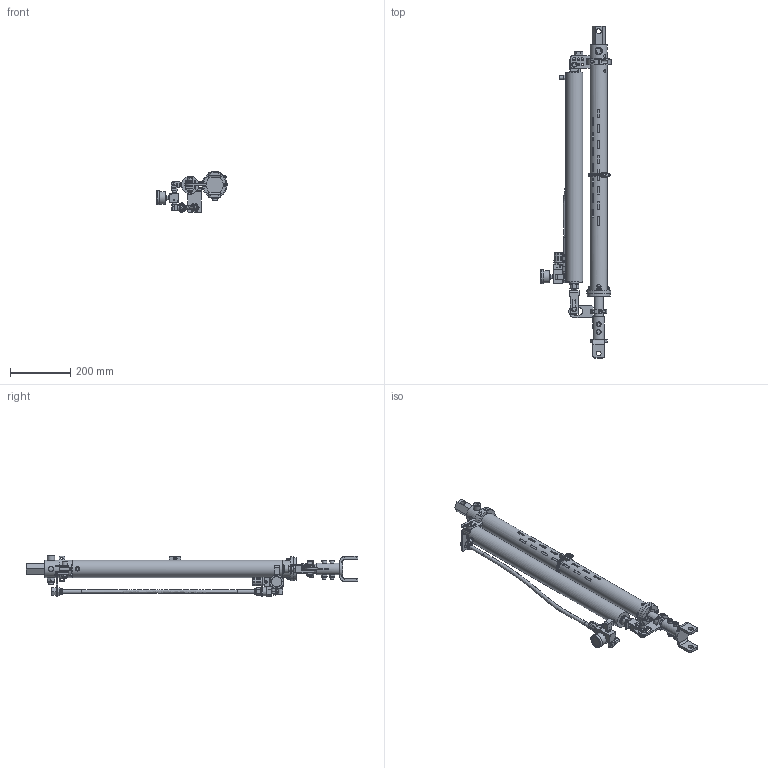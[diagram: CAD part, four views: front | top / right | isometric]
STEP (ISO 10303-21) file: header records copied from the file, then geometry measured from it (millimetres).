
FILE_DESCRIPTION(/* description */ (''),/* implementation_level */ '2;1');
FILE_NAME(/* name */ 'ATA2900-24AR.001.stp',/* time_stamp */ '2024-11-27T15:52:27-05:00',/* author */ (''),/* organization */ (''),/* preprocessor_version */ 'ST-DEVELOPER v19.4',/* originating_system */ 'SIEMENS PLM Software NX2306.9120',/* authorisation */ '');
FILE_SCHEMA (('AUTOMOTIVE_DESIGN { 1 0 10303 214 3 1 1 1 }'));
Length unit declared in the file: millimetre
Products named in the file (1): ATA2900-24AR.001
Bounding box: 232.65 x 1098.01 x 135.92 mm (x, y, z)
Volume: 3739663.9 mm3; surface area: 884428.4 mm2
Topology: 230 solids, 230 shells, 1977 faces, 4961 edges, 3205 vertices
Faces by surface type: plane 956, cylinder 490, cone 177, sphere 170, torus 97, extrusion 62, bspline 25
Full cylindrical faces by diameter (mm): 2.5 x2, 3 x4, 3.5 x1, 4.762 x1, 4.763 x1, 5 x2, 6 x16, 6.1 x2, 6.5 x4, 7.62 x2, 7.938 x4, 8.001 x1, 8.46 x1, 8.636 x11, 8.731 x2, 9 x1, 9.017 x2, 9.525 x2, 10 x10, 10.008 x5, 10.084 x11, 10.127 x2, 10.287 x1, 10.356 x1, 10.7 x3, 11 x4, 11.113 x7, 11.125 x10, 11.509 x4, 12 x2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
Entity records: 98069 total; most frequent: CARTESIAN_POINT 41295, DIRECTION 8152, ORIENTED_EDGE 8066, EDGE_CURVE 4033, AXIS2_PLACEMENT_3D 3042, VERTEX_POINT 2938, EDGE_LOOP 2510, PRESENTATION_STYLE_ASSIGNMENT 2091
